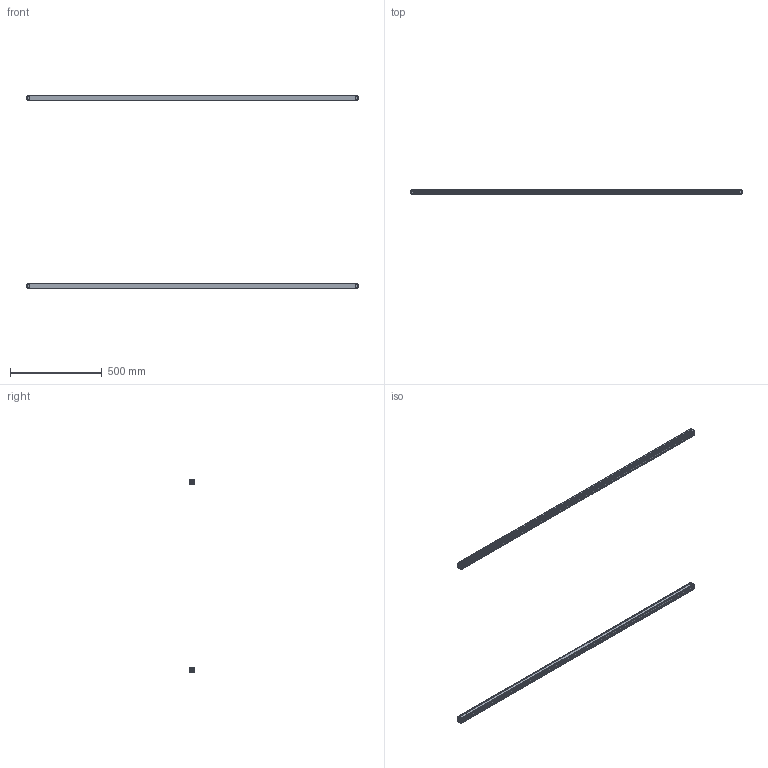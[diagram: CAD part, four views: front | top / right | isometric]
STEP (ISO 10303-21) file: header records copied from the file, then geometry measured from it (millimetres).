
FILE_DESCRIPTION(/* description */ (''),/* implementation_level */ '2;1');
FILE_NAME(/* name */ 'THS20-88.stp',/* time_stamp */ '2023-12-26T10:44:52+08:00',/* author */ (''),/* organization */ (''),/* preprocessor_version */ 'ST-DEVELOPER v16',/* originating_system */ 'SIEMENS PLM Software NX 11.0',/* authorisation */ '');
FILE_SCHEMA (('AP203_CONFIGURATION_CONTROLLED_3D_DESIGN_OF_MECHANICAL_PARTS_AND_ASSEMBLIES_MIM_LF { 1 0 10303 403 2 1 2}'));
Length unit declared in the file: millimetre
Products named in the file (10): 161123; 141124; 121125; 131126; 1021127; 1011128; 111129; ASM0002_ASM1130; 0000_ASM1131; THS20-52--_stp
Assembly tree (10 placements, depth 4):
  THS20-52--_stp
    0000_ASM1131  x2
      111129
      1011128
      1021127
      131126
      121125
      ASM0002_ASM1130
        141124
        161123
Bounding box: 1812 x 30.3 x 1058.6 mm (x, y, z)
Volume: 1112536.7 mm3; surface area: 1186443.7 mm2
Topology: 10 solids, 14 shells, 1080 faces, 3010 edges, 1986 vertices
Faces by surface type: plane 764, cylinder 288, cone 28
Entity records: 18484 total; most frequent: CARTESIAN_POINT 3097, ORIENTED_EDGE 3006, DIRECTION 2915, EDGE_CURVE 1505, LINE 1173, VECTOR 1173, VERTEX_POINT 993, AXIS2_PLACEMENT_3D 871
